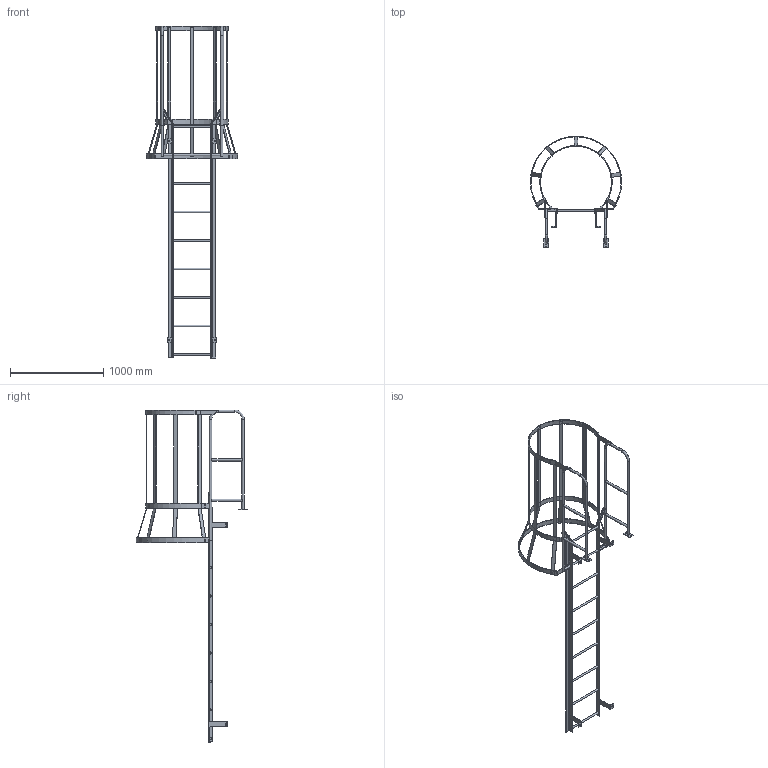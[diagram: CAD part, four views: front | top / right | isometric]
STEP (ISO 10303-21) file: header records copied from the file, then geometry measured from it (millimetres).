
FILE_DESCRIPTION(/* description */ (''),/* implementation_level */ '2;1');
FILE_NAME(/* name */ 'P:\MIKEL & KAREN\3570291 F9WC SIMPLIFIED PART.stp',/* time_stamp */ '2018-07-02T15:57:53-04:00',/* author */ ('stephanie'),/* organization */ (''),/* preprocessor_version */ 'ST-DEVELOPER v16.1',/* originating_system */ 'Autodesk Inventor 2016',/* authorisation */ '');
FILE_SCHEMA (('AUTOMOTIVE_DESIGN { 1 0 10303 214 3 1 1 }'));
Length unit declared in the file: centimetre
Products named in the file (1): 3570291 F9WC SIMPLIFIED PART
Bounding box: 977.88 x 1195.62 x 3552.82 mm (x, y, z)
Volume: 9367385.1 mm3; surface area: 3964074.4 mm2
Topology: 16 solids, 16 shells, 406 faces, 1245 edges, 816 vertices
Faces by surface type: plane 253, cylinder 145, torus 8
Full cylindrical faces by diameter (mm): 10.319 x4, 14.287 x4, 19.05 x9, 22.098 x10, 22.225 x18, 25.4 x10
Entity records: 14445 total; most frequent: CARTESIAN_POINT 2768, ORIENTED_EDGE 2340, DIRECTION 2306, EDGE_CURVE 1154, VERTEX_POINT 789, LINE 780, VECTOR 780, AXIS2_PLACEMENT_3D 763
